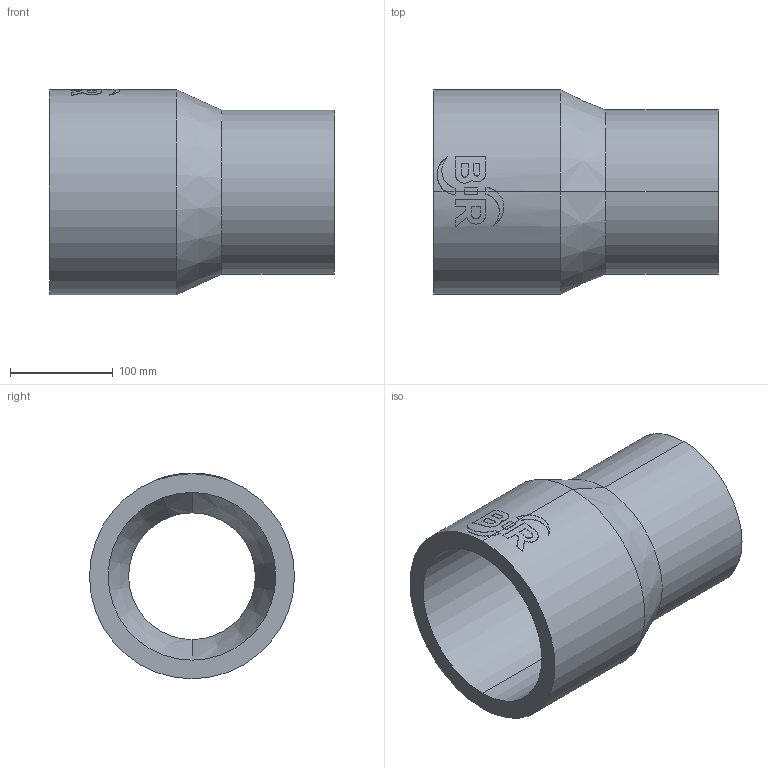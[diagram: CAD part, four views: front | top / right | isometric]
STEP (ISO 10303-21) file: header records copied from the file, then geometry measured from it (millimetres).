
FILE_DESCRIPTION (( 'STEP AP214' ), '1' );
FILE_NAME ('2323191715.STEP', '2018-07-20T12:05:45', ( '' ), ( '' ), 'SwSTEP 2.0', 'SolidWorks 2017', '' );
FILE_SCHEMA (( 'AUTOMOTIVE_DESIGN' ));
Length unit declared in the file: millimetre
Products named in the file (1): 2323191715
Bounding box: 278 x 200 x 200.46 mm (x, y, z)
Volume: 2624162.8 mm3; surface area: 307062.9 mm2
Topology: 1 solids, 1 shells, 63 faces, 160 edges, 104 vertices
Faces by surface type: cylinder 31, plane 28, cone 4
Entity records: 3293 total; most frequent: CARTESIAN_POINT 1084, ORIENTED_EDGE 320, DIRECTION 296, EDGE_CURVE 160, AXIS2_PLACEMENT_3D 112, VERTEX_POINT 104, VECTOR 72, LINE 72
